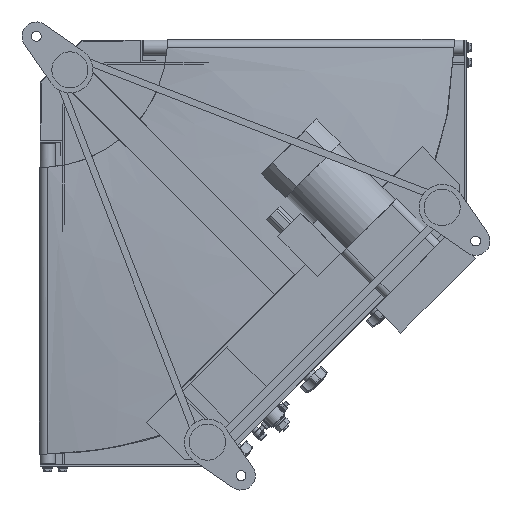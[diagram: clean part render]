
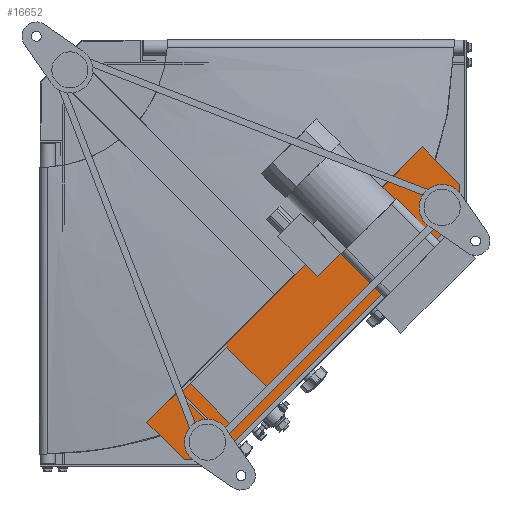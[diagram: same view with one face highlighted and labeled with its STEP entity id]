
A CAD part, front view. The second image highlights one B-rep face of the part: STEP entity #16652.
In plain terms, the highlighted planar face has unit normal (0, -1, 0).
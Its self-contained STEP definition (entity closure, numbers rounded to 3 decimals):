
#205 = EDGE_CURVE ( 'NONE', #24015, #9084, #18804, .T. ) ;
#1352 = CARTESIAN_POINT ( 'NONE',  ( 141.775, -167.5, -507.349 ) ) ;
#2509 = VERTEX_POINT ( 'NONE', #16329 ) ;
#5686 = CARTESIAN_POINT ( 'NONE',  ( 0., -167.5, 0. ) ) ;
#5940 = VECTOR ( 'NONE', #14364, 1000. ) ;
#6654 = ORIENTED_EDGE ( 'NONE', *, *, #9564, .F. ) ;
#6800 = VERTEX_POINT ( 'NONE', #26266 ) ;
#7020 = ORIENTED_EDGE ( 'NONE', *, *, #10738, .F. ) ;
#7741 = VECTOR ( 'NONE', #27338, 1000. ) ;
#9084 = VERTEX_POINT ( 'NONE', #23990 ) ;
#9564 = EDGE_CURVE ( 'NONE', #24567, #6800, #16847, .T. ) ;
#9765 = ORIENTED_EDGE ( 'NONE', *, *, #15079, .F. ) ;
#10738 = EDGE_CURVE ( 'NONE', #2509, #24567, #13394, .T. ) ;
#11957 = CARTESIAN_POINT ( 'NONE',  ( 507.349, -167.5, -141.775 ) ) ;
#12939 = ORIENTED_EDGE ( 'NONE', *, *, #205, .F. ) ;
#13394 = LINE ( 'NONE', #17566, #7741 ) ;
#13753 = FACE_OUTER_BOUND ( 'NONE', #25187, .T. ) ;
#14364 = DIRECTION ( 'NONE',  ( 0.707, 0., -0.707 ) ) ;
#14692 = EDGE_CURVE ( 'NONE', #6800, #24015, #27844, .T. ) ;
#15030 = VECTOR ( 'NONE', #16098, 1000. ) ;
#15079 = EDGE_CURVE ( 'NONE', #9084, #28539, #18418, .T. ) ;
#15667 = VECTOR ( 'NONE', #19427, 1000. ) ;
#16098 = DIRECTION ( 'NONE',  ( -0.707, 0., 0.707 ) ) ;
#16329 = CARTESIAN_POINT ( 'NONE',  ( 556.847, -167.5, -233.699 ) ) ;
#16652 = ADVANCED_FACE ( 'NONE', ( #13753 ), #17928, .F. ) ;
#16847 = LINE ( 'NONE', #20483, #22515 ) ;
#17566 = CARTESIAN_POINT ( 'NONE',  ( 233.699, -167.5, -556.847 ) ) ;
#17928 = PLANE ( 'NONE',  #28653 ) ;
#17969 = LINE ( 'NONE', #19745, #15667 ) ;
#18112 = DIRECTION ( 'NONE',  ( 0.707, 0., 0.707 ) ) ;
#18333 = CARTESIAN_POINT ( 'NONE',  ( 141.775, -167.5, -507.349 ) ) ;
#18418 = LINE ( 'NONE', #11957, #5940 ) ;
#18804 = LINE ( 'NONE', #18333, #28974 ) ;
#19048 = CARTESIAN_POINT ( 'NONE',  ( 233.699, -167.5, -556.847 ) ) ;
#19427 = DIRECTION ( 'NONE',  ( 0., 0., -1. ) ) ;
#19745 = CARTESIAN_POINT ( 'NONE',  ( 556.847, -167.5, -233.699 ) ) ;
#20483 = CARTESIAN_POINT ( 'NONE',  ( 191.272, -167.5, -556.847 ) ) ;
#22515 = VECTOR ( 'NONE', #29850, 1000. ) ;
#22565 = DIRECTION ( 'NONE',  ( 0., 1., 0. ) ) ;
#23051 = CARTESIAN_POINT ( 'NONE',  ( 556.847, -167.5, -191.272 ) ) ;
#23990 = CARTESIAN_POINT ( 'NONE',  ( 507.349, -167.5, -141.775 ) ) ;
#24015 = VERTEX_POINT ( 'NONE', #27341 ) ;
#24567 = VERTEX_POINT ( 'NONE', #19048 ) ;
#25187 = EDGE_LOOP ( 'NONE', ( #25216, #9765, #12939, #27408, #6654, #7020 ) ) ;
#25216 = ORIENTED_EDGE ( 'NONE', *, *, #28044, .F. ) ;
#26266 = CARTESIAN_POINT ( 'NONE',  ( 191.272, -167.5, -556.847 ) ) ;
#27338 = DIRECTION ( 'NONE',  ( -0.707, 0., -0.707 ) ) ;
#27341 = CARTESIAN_POINT ( 'NONE',  ( 141.775, -167.5, -507.349 ) ) ;
#27408 = ORIENTED_EDGE ( 'NONE', *, *, #14692, .F. ) ;
#27844 = LINE ( 'NONE', #1352, #15030 ) ;
#28044 = EDGE_CURVE ( 'NONE', #28539, #2509, #17969, .T. ) ;
#28539 = VERTEX_POINT ( 'NONE', #23051 ) ;
#28653 = AXIS2_PLACEMENT_3D ( 'NONE', #5686, #22565, #29831 ) ;
#28974 = VECTOR ( 'NONE', #18112, 1000. ) ;
#29831 = DIRECTION ( 'NONE',  ( 0., 0., 1. ) ) ;
#29850 = DIRECTION ( 'NONE',  ( -1., 0., 0. ) ) ;
